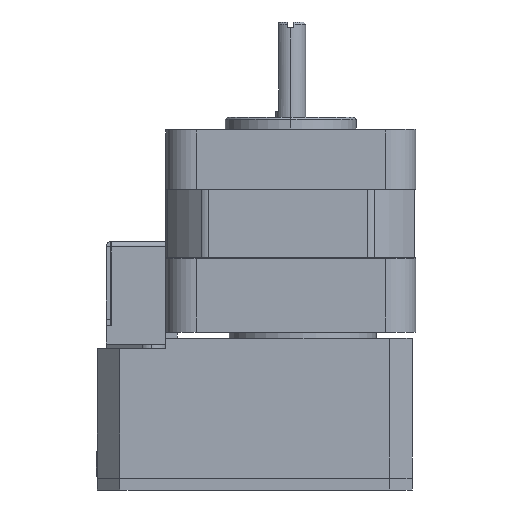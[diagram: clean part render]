
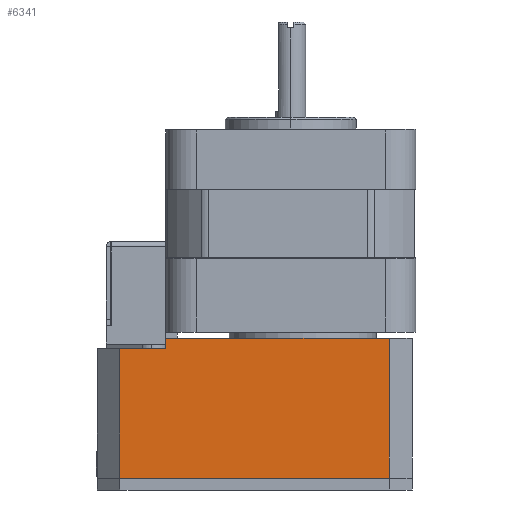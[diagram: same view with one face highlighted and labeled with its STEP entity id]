
A CAD part, left-side view. The second image highlights one B-rep face of the part: STEP entity #6341.
In plain terms, the highlighted planar face has unit normal (-1, 0, 0) as drawn and (1, 0, 0) by its records, which use the part's own axes.
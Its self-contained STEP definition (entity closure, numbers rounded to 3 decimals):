
#114 = EDGE_CURVE ( 'NONE', #5025, #4942, #9909, .T. ) ;
#195 = EDGE_CURVE ( 'NONE', #4932, #5025, #10047, .T. ) ;
#220 = EDGE_CURVE ( 'NONE', #4942, #5108, #10087, .T. ) ;
#221 = EDGE_CURVE ( 'NONE', #5108, #5109, #10089, .T. ) ;
#222 = EDGE_CURVE ( 'NONE', #5109, #5110, #10091, .T. ) ;
#223 = EDGE_CURVE ( 'NONE', #4932, #5110, #10093, .T. ) ;
#4932 = VERTEX_POINT ( 'NONE', #19232 ) ;
#4942 = VERTEX_POINT ( 'NONE', #19242 ) ;
#5025 = VERTEX_POINT ( 'NONE', #19325 ) ;
#5108 = VERTEX_POINT ( 'NONE', #19408 ) ;
#5109 = VERTEX_POINT ( 'NONE', #19409 ) ;
#5110 = VERTEX_POINT ( 'NONE', #19410 ) ;
#6123 = CARTESIAN_POINT ( 'NONE',  ( 42., 23.5, 26.5 ) ) ;
#6124 = DIRECTION ( 'NONE',  ( 0., 0., 1. ) ) ;
#6341 = ADVANCED_FACE ( 'NONE', ( #17876 ), #20268, .T. ) ;
#6753 = ORIENTED_EDGE ( 'NONE', *, *, #114, .T. ) ;
#6754 = ORIENTED_EDGE ( 'NONE', *, *, #220, .T. ) ;
#6755 = ORIENTED_EDGE ( 'NONE', *, *, #221, .T. ) ;
#6756 = ORIENTED_EDGE ( 'NONE', *, *, #222, .T. ) ;
#6757 = ORIENTED_EDGE ( 'NONE', *, *, #223, .F. ) ;
#6758 = ORIENTED_EDGE ( 'NONE', *, *, #195, .T. ) ;
#7407 = EDGE_LOOP ( 'NONE', ( #6753, #6754, #6755, #6756, #6757, #6758 ) ) ;
#9909 = LINE ( 'NONE', #6123, #9910 ) ;
#9910 = VECTOR ( 'NONE', #6124, 1000. ) ;
#10047 = LINE ( 'NONE', #11153, #10048 ) ;
#10048 = VECTOR ( 'NONE', #11154, 1000. ) ;
#10087 = LINE ( 'NONE', #11213, #10088 ) ;
#10088 = VECTOR ( 'NONE', #11214, 1000. ) ;
#10089 = LINE ( 'NONE', #11215, #10090 ) ;
#10090 = VECTOR ( 'NONE', #11216, 1000. ) ;
#10091 = LINE ( 'NONE', #11217, #10092 ) ;
#10092 = VECTOR ( 'NONE', #11218, 1000. ) ;
#10093 = LINE ( 'NONE', #11219, #10094 ) ;
#10094 = VECTOR ( 'NONE', #11220, 1000. ) ;
#11153 = CARTESIAN_POINT ( 'NONE',  ( 42., 11.75, 3.85 ) ) ;
#11154 = DIRECTION ( 'NONE',  ( 0., 1., 0. ) ) ;
#11213 = CARTESIAN_POINT ( 'NONE',  ( 42., 11.75, 41.5 ) ) ;
#11214 = DIRECTION ( 'NONE',  ( 0., -1., 0. ) ) ;
#11215 = CARTESIAN_POINT ( 'NONE',  ( 42., 21.75, 47.25 ) ) ;
#11216 = DIRECTION ( 'NONE',  ( 0., 0., 1. ) ) ;
#11217 = CARTESIAN_POINT ( 'NONE',  ( 42., 10.875, 49.15 ) ) ;
#11218 = DIRECTION ( 'NONE',  ( 0., -1., 0. ) ) ;
#11219 = CARTESIAN_POINT ( 'NONE',  ( 42., 0., 26.5 ) ) ;
#11220 = DIRECTION ( 'NONE',  ( 0., 0., 1. ) ) ;
#17876 = FACE_OUTER_BOUND ( 'NONE', #7407, .T. ) ;
#18520 = AXIS2_PLACEMENT_3D ( 'NONE', #20269, #20270, #20271 ) ;
#19232 = CARTESIAN_POINT ( 'NONE',  ( 42., 0., 3.85 ) ) ;
#19242 = CARTESIAN_POINT ( 'NONE',  ( 42., 23.5, 41.5 ) ) ;
#19325 = CARTESIAN_POINT ( 'NONE',  ( 42., 23.5, 3.85 ) ) ;
#19408 = CARTESIAN_POINT ( 'NONE',  ( 42., 21.75, 41.5 ) ) ;
#19409 = CARTESIAN_POINT ( 'NONE',  ( 42., 21.75, 49.15 ) ) ;
#19410 = CARTESIAN_POINT ( 'NONE',  ( 42., 0., 49.15 ) ) ;
#20268 = PLANE ( 'NONE',  #18520 ) ;
#20269 = CARTESIAN_POINT ( 'NONE',  ( 42., 0., 49.15 ) ) ;
#20270 = DIRECTION ( 'NONE',  ( 1., 0., 0. ) ) ;
#20271 = DIRECTION ( 'NONE',  ( 0., 0., -1. ) ) ;
